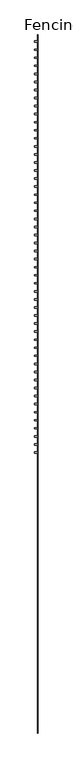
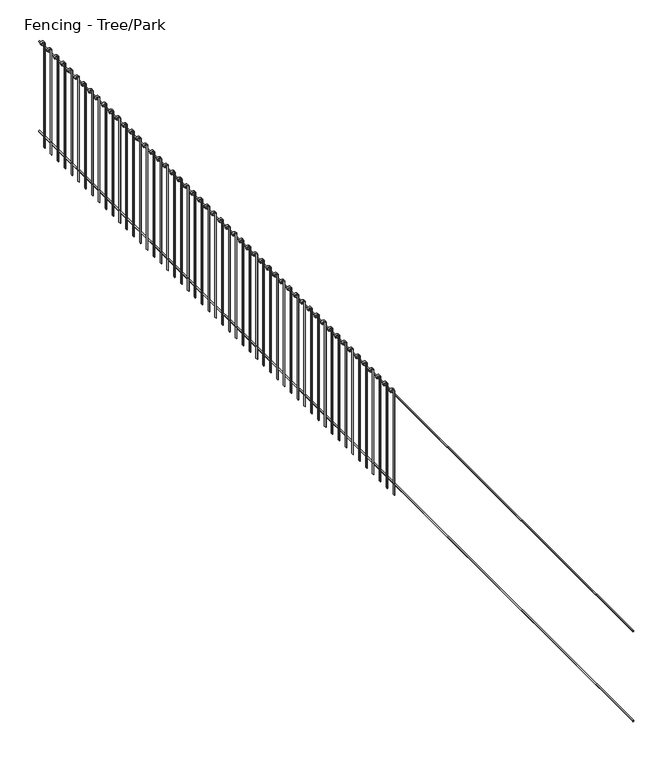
"""IFC4 building model written with IfcOpenShell, lengths in millimetres: railing geometry, Fencing - Tree/Park."""

from ifc_helpers import new_model, si_unit, point, frame, frame_2d, origin, place, context, project, spatial, polyline, circle_curve, trimmed, segment, composite_curve, outline, extrude, source, transform, mapped, element, save


def fencing_tree_park_c87fcb7d(model_context):
    return source(origin(), model_context, "Body", "SweptSolid", [
        extrude(outline(composite_curve([segment(trimmed(circle_curve(frame_2d((1392.5, 42808.4324334)), 7.5), [point((1392.5, 42800.9324334))], [point((1392.5, 42815.9324334))], False, "CARTESIAN"), True, "CONTINUOUS"), segment(trimmed(circle_curve(frame_2d((1392.5, 42808.4324334)), 7.5), [point((1392.5, 42815.9324334))], [point((1392.5, 42800.9324334))], False, "CARTESIAN"), True, "CONTINUOUS")], self_intersect=False)), frame((0.0, -56479.0868221, 0.0), z_axis=(0.0, 1.0, 0.0), x_axis=(0.0, 0.0, 1.0)), (0.0, 0.0, 1.0), 13000.0),
        extrude(outline(composite_curve([segment(trimmed(circle_curve(frame_2d((192.5, 42808.4324334)), 7.5), [point((192.5, 42800.9324334))], [point((192.5, 42815.9324334))], False, "CARTESIAN"), True, "CONTINUOUS"), segment(trimmed(circle_curve(frame_2d((192.5, 42808.4324334)), 7.5), [point((192.5, 42815.9324334))], [point((192.5, 42800.9324334))], False, "CARTESIAN"), True, "CONTINUOUS")], self_intersect=False)), frame((0.0, -56479.0868221, 0.0), z_axis=(0.0, 1.0, 0.0), x_axis=(0.0, 0.0, 1.0)), (0.0, 0.0, 1.0), 13000.0),
        extrude(outline(composite_curve([segment(trimmed(circle_curve(frame_2d((1450.0, 42775.9324334)), 25.0), [point((1450.0, 42800.9324334))], [point((1450.0, 42750.9324334))], False, "CARTESIAN"), True, "CONTINUOUS"), segment(polyline([(1450.0, 42750.9324334), (1440.0, 42750.9324334), (1440.0, 42755.9324334), (1450.0, 42755.9324334)]), True, "CONTINUOUS"), segment(trimmed(circle_curve(frame_2d((1450.0, 42775.9324334)), 20.0), [point((1450.0, 42755.9324334))], [point((1450.0, 42795.9324334))], True, "CARTESIAN"), True, "CONTINUOUS"), segment(polyline([(1450.0, 42795.9324334), (50.0, 42795.9324334), (50.0, 42800.9324334), (1450.0, 42800.9324334)]), True, "CONTINUOUS")], self_intersect=False)), frame((0.0, -43616.5868221, 0.0), z_axis=(0.0, 1.0, 0.0), x_axis=(0.0, 0.0, 1.0)), (0.0, 0.0, 1.0), 25.0),
        extrude(outline(composite_curve([segment(trimmed(circle_curve(frame_2d((1450.0, 42775.9324334)), 25.0), [point((1450.0, 42800.9324334))], [point((1450.0, 42750.9324334))], False, "CARTESIAN"), True, "CONTINUOUS"), segment(polyline([(1450.0, 42750.9324334), (1440.0, 42750.9324334), (1440.0, 42755.9324334), (1450.0, 42755.9324334)]), True, "CONTINUOUS"), segment(trimmed(circle_curve(frame_2d((1450.0, 42775.9324334)), 20.0), [point((1450.0, 42755.9324334))], [point((1450.0, 42795.9324334))], True, "CARTESIAN"), True, "CONTINUOUS"), segment(polyline([(1450.0, 42795.9324334), (50.0, 42795.9324334), (50.0, 42800.9324334), (1450.0, 42800.9324334)]), True, "CONTINUOUS")], self_intersect=False)), frame((0.0, -43766.5868221, 0.0), z_axis=(0.0, 1.0, 0.0), x_axis=(0.0, 0.0, 1.0)), (0.0, 0.0, 1.0), 25.0),
        extrude(outline(composite_curve([segment(trimmed(circle_curve(frame_2d((1450.0, 42775.9324334)), 25.0), [point((1450.0, 42800.9324334))], [point((1450.0, 42750.9324334))], False, "CARTESIAN"), True, "CONTINUOUS"), segment(polyline([(1450.0, 42750.9324334), (1440.0, 42750.9324334), (1440.0, 42755.9324334), (1450.0, 42755.9324334)]), True, "CONTINUOUS"), segment(trimmed(circle_curve(frame_2d((1450.0, 42775.9324334)), 20.0), [point((1450.0, 42755.9324334))], [point((1450.0, 42795.9324334))], True, "CARTESIAN"), True, "CONTINUOUS"), segment(polyline([(1450.0, 42795.9324334), (50.0, 42795.9324334), (50.0, 42800.9324334), (1450.0, 42800.9324334)]), True, "CONTINUOUS")], self_intersect=False)), frame((0.0, -43916.5868221, 0.0), z_axis=(0.0, 1.0, 0.0), x_axis=(0.0, 0.0, 1.0)), (0.0, 0.0, 1.0), 25.0),
        extrude(outline(composite_curve([segment(trimmed(circle_curve(frame_2d((1450.0, 42775.9324334)), 25.0), [point((1450.0, 42800.9324334))], [point((1450.0, 42750.9324334))], False, "CARTESIAN"), True, "CONTINUOUS"), segment(polyline([(1450.0, 42750.9324334), (1440.0, 42750.9324334), (1440.0, 42755.9324334), (1450.0, 42755.9324334)]), True, "CONTINUOUS"), segment(trimmed(circle_curve(frame_2d((1450.0, 42775.9324334)), 20.0), [point((1450.0, 42755.9324334))], [point((1450.0, 42795.9324334))], True, "CARTESIAN"), True, "CONTINUOUS"), segment(polyline([(1450.0, 42795.9324334), (50.0, 42795.9324334), (50.0, 42800.9324334), (1450.0, 42800.9324334)]), True, "CONTINUOUS")], self_intersect=False)), frame((0.0, -44066.5868221, 0.0), z_axis=(0.0, 1.0, 0.0), x_axis=(0.0, 0.0, 1.0)), (0.0, 0.0, 1.0), 25.0),
        extrude(outline(composite_curve([segment(trimmed(circle_curve(frame_2d((1450.0, 42775.9324334)), 25.0), [point((1450.0, 42800.9324334))], [point((1450.0, 42750.9324334))], False, "CARTESIAN"), True, "CONTINUOUS"), segment(polyline([(1450.0, 42750.9324334), (1440.0, 42750.9324334), (1440.0, 42755.9324334), (1450.0, 42755.9324334)]), True, "CONTINUOUS"), segment(trimmed(circle_curve(frame_2d((1450.0, 42775.9324334)), 20.0), [point((1450.0, 42755.9324334))], [point((1450.0, 42795.9324334))], True, "CARTESIAN"), True, "CONTINUOUS"), segment(polyline([(1450.0, 42795.9324334), (50.0, 42795.9324334), (50.0, 42800.9324334), (1450.0, 42800.9324334)]), True, "CONTINUOUS")], self_intersect=False)), frame((0.0, -44216.5868221, 0.0), z_axis=(0.0, 1.0, 0.0), x_axis=(0.0, 0.0, 1.0)), (0.0, 0.0, 1.0), 25.0),
        extrude(outline(composite_curve([segment(trimmed(circle_curve(frame_2d((1450.0, 42775.9324334)), 25.0), [point((1450.0, 42800.9324334))], [point((1450.0, 42750.9324334))], False, "CARTESIAN"), True, "CONTINUOUS"), segment(polyline([(1450.0, 42750.9324334), (1440.0, 42750.9324334), (1440.0, 42755.9324334), (1450.0, 42755.9324334)]), True, "CONTINUOUS"), segment(trimmed(circle_curve(frame_2d((1450.0, 42775.9324334)), 20.0), [point((1450.0, 42755.9324334))], [point((1450.0, 42795.9324334))], True, "CARTESIAN"), True, "CONTINUOUS"), segment(polyline([(1450.0, 42795.9324334), (50.0, 42795.9324334), (50.0, 42800.9324334), (1450.0, 42800.9324334)]), True, "CONTINUOUS")], self_intersect=False)), frame((0.0, -44366.5868221, 0.0), z_axis=(0.0, 1.0, 0.0), x_axis=(0.0, 0.0, 1.0)), (0.0, 0.0, 1.0), 25.0),
        extrude(outline(composite_curve([segment(trimmed(circle_curve(frame_2d((1450.0, 42775.9324334)), 25.0), [point((1450.0, 42800.9324334))], [point((1450.0, 42750.9324334))], False, "CARTESIAN"), True, "CONTINUOUS"), segment(polyline([(1450.0, 42750.9324334), (1440.0, 42750.9324334), (1440.0, 42755.9324334), (1450.0, 42755.9324334)]), True, "CONTINUOUS"), segment(trimmed(circle_curve(frame_2d((1450.0, 42775.9324334)), 20.0), [point((1450.0, 42755.9324334))], [point((1450.0, 42795.9324334))], True, "CARTESIAN"), True, "CONTINUOUS"), segment(polyline([(1450.0, 42795.9324334), (50.0, 42795.9324334), (50.0, 42800.9324334), (1450.0, 42800.9324334)]), True, "CONTINUOUS")], self_intersect=False)), frame((0.0, -44516.5868221, 0.0), z_axis=(0.0, 1.0, 0.0), x_axis=(0.0, 0.0, 1.0)), (0.0, 0.0, 1.0), 25.0),
        extrude(outline(composite_curve([segment(trimmed(circle_curve(frame_2d((1450.0, 42775.9324334)), 25.0), [point((1450.0, 42800.9324334))], [point((1450.0, 42750.9324334))], False, "CARTESIAN"), True, "CONTINUOUS"), segment(polyline([(1450.0, 42750.9324334), (1440.0, 42750.9324334), (1440.0, 42755.9324334), (1450.0, 42755.9324334)]), True, "CONTINUOUS"), segment(trimmed(circle_curve(frame_2d((1450.0, 42775.9324334)), 20.0), [point((1450.0, 42755.9324334))], [point((1450.0, 42795.9324334))], True, "CARTESIAN"), True, "CONTINUOUS"), segment(polyline([(1450.0, 42795.9324334), (50.0, 42795.9324334), (50.0, 42800.9324334), (1450.0, 42800.9324334)]), True, "CONTINUOUS")], self_intersect=False)), frame((0.0, -44666.5868221, 0.0), z_axis=(0.0, 1.0, 0.0), x_axis=(0.0, 0.0, 1.0)), (0.0, 0.0, 1.0), 25.0),
        extrude(outline(composite_curve([segment(trimmed(circle_curve(frame_2d((1450.0, 42775.9324334)), 25.0), [point((1450.0, 42800.9324334))], [point((1450.0, 42750.9324334))], False, "CARTESIAN"), True, "CONTINUOUS"), segment(polyline([(1450.0, 42750.9324334), (1440.0, 42750.9324334), (1440.0, 42755.9324334), (1450.0, 42755.9324334)]), True, "CONTINUOUS"), segment(trimmed(circle_curve(frame_2d((1450.0, 42775.9324334)), 20.0), [point((1450.0, 42755.9324334))], [point((1450.0, 42795.9324334))], True, "CARTESIAN"), True, "CONTINUOUS"), segment(polyline([(1450.0, 42795.9324334), (50.0, 42795.9324334), (50.0, 42800.9324334), (1450.0, 42800.9324334)]), True, "CONTINUOUS")], self_intersect=False)), frame((0.0, -44816.5868221, 0.0), z_axis=(0.0, 1.0, 0.0), x_axis=(0.0, 0.0, 1.0)), (0.0, 0.0, 1.0), 25.0),
        extrude(outline(composite_curve([segment(trimmed(circle_curve(frame_2d((1450.0, 42775.9324334)), 25.0), [point((1450.0, 42800.9324334))], [point((1450.0, 42750.9324334))], False, "CARTESIAN"), True, "CONTINUOUS"), segment(polyline([(1450.0, 42750.9324334), (1440.0, 42750.9324334), (1440.0, 42755.9324334), (1450.0, 42755.9324334)]), True, "CONTINUOUS"), segment(trimmed(circle_curve(frame_2d((1450.0, 42775.9324334)), 20.0), [point((1450.0, 42755.9324334))], [point((1450.0, 42795.9324334))], True, "CARTESIAN"), True, "CONTINUOUS"), segment(polyline([(1450.0, 42795.9324334), (50.0, 42795.9324334), (50.0, 42800.9324334), (1450.0, 42800.9324334)]), True, "CONTINUOUS")], self_intersect=False)), frame((0.0, -44966.5868221, 0.0), z_axis=(0.0, 1.0, 0.0), x_axis=(0.0, 0.0, 1.0)), (0.0, 0.0, 1.0), 25.0),
        extrude(outline(composite_curve([segment(trimmed(circle_curve(frame_2d((1450.0, 42775.9324334)), 25.0), [point((1450.0, 42800.9324334))], [point((1450.0, 42750.9324334))], False, "CARTESIAN"), True, "CONTINUOUS"), segment(polyline([(1450.0, 42750.9324334), (1440.0, 42750.9324334), (1440.0, 42755.9324334), (1450.0, 42755.9324334)]), True, "CONTINUOUS"), segment(trimmed(circle_curve(frame_2d((1450.0, 42775.9324334)), 20.0), [point((1450.0, 42755.9324334))], [point((1450.0, 42795.9324334))], True, "CARTESIAN"), True, "CONTINUOUS"), segment(polyline([(1450.0, 42795.9324334), (50.0, 42795.9324334), (50.0, 42800.9324334), (1450.0, 42800.9324334)]), True, "CONTINUOUS")], self_intersect=False)), frame((0.0, -45116.5868221, 0.0), z_axis=(0.0, 1.0, 0.0), x_axis=(0.0, 0.0, 1.0)), (0.0, 0.0, 1.0), 25.0),
        extrude(outline(composite_curve([segment(trimmed(circle_curve(frame_2d((1450.0, 42775.9324334)), 25.0), [point((1450.0, 42800.9324334))], [point((1450.0, 42750.9324334))], False, "CARTESIAN"), True, "CONTINUOUS"), segment(polyline([(1450.0, 42750.9324334), (1440.0, 42750.9324334), (1440.0, 42755.9324334), (1450.0, 42755.9324334)]), True, "CONTINUOUS"), segment(trimmed(circle_curve(frame_2d((1450.0, 42775.9324334)), 20.0), [point((1450.0, 42755.9324334))], [point((1450.0, 42795.9324334))], True, "CARTESIAN"), True, "CONTINUOUS"), segment(polyline([(1450.0, 42795.9324334), (50.0, 42795.9324334), (50.0, 42800.9324334), (1450.0, 42800.9324334)]), True, "CONTINUOUS")], self_intersect=False)), frame((0.0, -45266.5868221, 0.0), z_axis=(0.0, 1.0, 0.0), x_axis=(0.0, 0.0, 1.0)), (0.0, 0.0, 1.0), 25.0),
        extrude(outline(composite_curve([segment(trimmed(circle_curve(frame_2d((1450.0, 42775.9324334)), 25.0), [point((1450.0, 42800.9324334))], [point((1450.0, 42750.9324334))], False, "CARTESIAN"), True, "CONTINUOUS"), segment(polyline([(1450.0, 42750.9324334), (1440.0, 42750.9324334), (1440.0, 42755.9324334), (1450.0, 42755.9324334)]), True, "CONTINUOUS"), segment(trimmed(circle_curve(frame_2d((1450.0, 42775.9324334)), 20.0), [point((1450.0, 42755.9324334))], [point((1450.0, 42795.9324334))], True, "CARTESIAN"), True, "CONTINUOUS"), segment(polyline([(1450.0, 42795.9324334), (50.0, 42795.9324334), (50.0, 42800.9324334), (1450.0, 42800.9324334)]), True, "CONTINUOUS")], self_intersect=False)), frame((0.0, -45416.5868221, 0.0), z_axis=(0.0, 1.0, 0.0), x_axis=(0.0, 0.0, 1.0)), (0.0, 0.0, 1.0), 25.0),
        extrude(outline(composite_curve([segment(trimmed(circle_curve(frame_2d((1450.0, 42775.9324334)), 25.0), [point((1450.0, 42800.9324334))], [point((1450.0, 42750.9324334))], False, "CARTESIAN"), True, "CONTINUOUS"), segment(polyline([(1450.0, 42750.9324334), (1440.0, 42750.9324334), (1440.0, 42755.9324334), (1450.0, 42755.9324334)]), True, "CONTINUOUS"), segment(trimmed(circle_curve(frame_2d((1450.0, 42775.9324334)), 20.0), [point((1450.0, 42755.9324334))], [point((1450.0, 42795.9324334))], True, "CARTESIAN"), True, "CONTINUOUS"), segment(polyline([(1450.0, 42795.9324334), (50.0, 42795.9324334), (50.0, 42800.9324334), (1450.0, 42800.9324334)]), True, "CONTINUOUS")], self_intersect=False)), frame((0.0, -45566.5868221, 0.0), z_axis=(0.0, 1.0, 0.0), x_axis=(0.0, 0.0, 1.0)), (0.0, 0.0, 1.0), 25.0),
        extrude(outline(composite_curve([segment(trimmed(circle_curve(frame_2d((1450.0, 42775.9324334)), 25.0), [point((1450.0, 42800.9324334))], [point((1450.0, 42750.9324334))], False, "CARTESIAN"), True, "CONTINUOUS"), segment(polyline([(1450.0, 42750.9324334), (1440.0, 42750.9324334), (1440.0, 42755.9324334), (1450.0, 42755.9324334)]), True, "CONTINUOUS"), segment(trimmed(circle_curve(frame_2d((1450.0, 42775.9324334)), 20.0), [point((1450.0, 42755.9324334))], [point((1450.0, 42795.9324334))], True, "CARTESIAN"), True, "CONTINUOUS"), segment(polyline([(1450.0, 42795.9324334), (50.0, 42795.9324334), (50.0, 42800.9324334), (1450.0, 42800.9324334)]), True, "CONTINUOUS")], self_intersect=False)), frame((0.0, -45716.5868221, 0.0), z_axis=(0.0, 1.0, 0.0), x_axis=(0.0, 0.0, 1.0)), (0.0, 0.0, 1.0), 25.0),
        extrude(outline(composite_curve([segment(trimmed(circle_curve(frame_2d((1450.0, 42775.9324334)), 25.0), [point((1450.0, 42800.9324334))], [point((1450.0, 42750.9324334))], False, "CARTESIAN"), True, "CONTINUOUS"), segment(polyline([(1450.0, 42750.9324334), (1440.0, 42750.9324334), (1440.0, 42755.9324334), (1450.0, 42755.9324334)]), True, "CONTINUOUS"), segment(trimmed(circle_curve(frame_2d((1450.0, 42775.9324334)), 20.0), [point((1450.0, 42755.9324334))], [point((1450.0, 42795.9324334))], True, "CARTESIAN"), True, "CONTINUOUS"), segment(polyline([(1450.0, 42795.9324334), (50.0, 42795.9324334), (50.0, 42800.9324334), (1450.0, 42800.9324334)]), True, "CONTINUOUS")], self_intersect=False)), frame((0.0, -45866.5868221, 0.0), z_axis=(0.0, 1.0, 0.0), x_axis=(0.0, 0.0, 1.0)), (0.0, 0.0, 1.0), 25.0),
        extrude(outline(composite_curve([segment(trimmed(circle_curve(frame_2d((1450.0, 42775.9324334)), 25.0), [point((1450.0, 42800.9324334))], [point((1450.0, 42750.9324334))], False, "CARTESIAN"), True, "CONTINUOUS"), segment(polyline([(1450.0, 42750.9324334), (1440.0, 42750.9324334), (1440.0, 42755.9324334), (1450.0, 42755.9324334)]), True, "CONTINUOUS"), segment(trimmed(circle_curve(frame_2d((1450.0, 42775.9324334)), 20.0), [point((1450.0, 42755.9324334))], [point((1450.0, 42795.9324334))], True, "CARTESIAN"), True, "CONTINUOUS"), segment(polyline([(1450.0, 42795.9324334), (50.0, 42795.9324334), (50.0, 42800.9324334), (1450.0, 42800.9324334)]), True, "CONTINUOUS")], self_intersect=False)), frame((0.0, -46016.5868221, 0.0), z_axis=(0.0, 1.0, 0.0), x_axis=(0.0, 0.0, 1.0)), (0.0, 0.0, 1.0), 25.0),
        extrude(outline(composite_curve([segment(trimmed(circle_curve(frame_2d((1450.0, 42775.9324334)), 25.0), [point((1450.0, 42800.9324334))], [point((1450.0, 42750.9324334))], False, "CARTESIAN"), True, "CONTINUOUS"), segment(polyline([(1450.0, 42750.9324334), (1440.0, 42750.9324334), (1440.0, 42755.9324334), (1450.0, 42755.9324334)]), True, "CONTINUOUS"), segment(trimmed(circle_curve(frame_2d((1450.0, 42775.9324334)), 20.0), [point((1450.0, 42755.9324334))], [point((1450.0, 42795.9324334))], True, "CARTESIAN"), True, "CONTINUOUS"), segment(polyline([(1450.0, 42795.9324334), (50.0, 42795.9324334), (50.0, 42800.9324334), (1450.0, 42800.9324334)]), True, "CONTINUOUS")], self_intersect=False)), frame((0.0, -46166.5868221, 0.0), z_axis=(0.0, 1.0, 0.0), x_axis=(0.0, 0.0, 1.0)), (0.0, 0.0, 1.0), 25.0),
        extrude(outline(composite_curve([segment(trimmed(circle_curve(frame_2d((1450.0, 42775.9324334)), 25.0), [point((1450.0, 42800.9324334))], [point((1450.0, 42750.9324334))], False, "CARTESIAN"), True, "CONTINUOUS"), segment(polyline([(1450.0, 42750.9324334), (1440.0, 42750.9324334), (1440.0, 42755.9324334), (1450.0, 42755.9324334)]), True, "CONTINUOUS"), segment(trimmed(circle_curve(frame_2d((1450.0, 42775.9324334)), 20.0), [point((1450.0, 42755.9324334))], [point((1450.0, 42795.9324334))], True, "CARTESIAN"), True, "CONTINUOUS"), segment(polyline([(1450.0, 42795.9324334), (50.0, 42795.9324334), (50.0, 42800.9324334), (1450.0, 42800.9324334)]), True, "CONTINUOUS")], self_intersect=False)), frame((0.0, -46316.5868221, 0.0), z_axis=(0.0, 1.0, 0.0), x_axis=(0.0, 0.0, 1.0)), (0.0, 0.0, 1.0), 25.0),
        extrude(outline(composite_curve([segment(trimmed(circle_curve(frame_2d((1450.0, 42775.9324334)), 25.0), [point((1450.0, 42800.9324334))], [point((1450.0, 42750.9324334))], False, "CARTESIAN"), True, "CONTINUOUS"), segment(polyline([(1450.0, 42750.9324334), (1440.0, 42750.9324334), (1440.0, 42755.9324334), (1450.0, 42755.9324334)]), True, "CONTINUOUS"), segment(trimmed(circle_curve(frame_2d((1450.0, 42775.9324334)), 20.0), [point((1450.0, 42755.9324334))], [point((1450.0, 42795.9324334))], True, "CARTESIAN"), True, "CONTINUOUS"), segment(polyline([(1450.0, 42795.9324334), (50.0, 42795.9324334), (50.0, 42800.9324334), (1450.0, 42800.9324334)]), True, "CONTINUOUS")], self_intersect=False)), frame((0.0, -46466.5868221, 0.0), z_axis=(0.0, 1.0, 0.0), x_axis=(0.0, 0.0, 1.0)), (0.0, 0.0, 1.0), 25.0),
        extrude(outline(composite_curve([segment(trimmed(circle_curve(frame_2d((1450.0, 42775.9324334)), 25.0), [point((1450.0, 42800.9324334))], [point((1450.0, 42750.9324334))], False, "CARTESIAN"), True, "CONTINUOUS"), segment(polyline([(1450.0, 42750.9324334), (1440.0, 42750.9324334), (1440.0, 42755.9324334), (1450.0, 42755.9324334)]), True, "CONTINUOUS"), segment(trimmed(circle_curve(frame_2d((1450.0, 42775.9324334)), 20.0), [point((1450.0, 42755.9324334))], [point((1450.0, 42795.9324334))], True, "CARTESIAN"), True, "CONTINUOUS"), segment(polyline([(1450.0, 42795.9324334), (50.0, 42795.9324334), (50.0, 42800.9324334), (1450.0, 42800.9324334)]), True, "CONTINUOUS")], self_intersect=False)), frame((0.0, -46616.5868221, 0.0), z_axis=(0.0, 1.0, 0.0), x_axis=(0.0, 0.0, 1.0)), (0.0, 0.0, 1.0), 25.0),
        extrude(outline(composite_curve([segment(trimmed(circle_curve(frame_2d((1450.0, 42775.9324334)), 25.0), [point((1450.0, 42800.9324334))], [point((1450.0, 42750.9324334))], False, "CARTESIAN"), True, "CONTINUOUS"), segment(polyline([(1450.0, 42750.9324334), (1440.0, 42750.9324334), (1440.0, 42755.9324334), (1450.0, 42755.9324334)]), True, "CONTINUOUS"), segment(trimmed(circle_curve(frame_2d((1450.0, 42775.9324334)), 20.0), [point((1450.0, 42755.9324334))], [point((1450.0, 42795.9324334))], True, "CARTESIAN"), True, "CONTINUOUS"), segment(polyline([(1450.0, 42795.9324334), (50.0, 42795.9324334), (50.0, 42800.9324334), (1450.0, 42800.9324334)]), True, "CONTINUOUS")], self_intersect=False)), frame((0.0, -46766.5868221, 0.0), z_axis=(0.0, 1.0, 0.0), x_axis=(0.0, 0.0, 1.0)), (0.0, 0.0, 1.0), 25.0),
        extrude(outline(composite_curve([segment(trimmed(circle_curve(frame_2d((1450.0, 42775.9324334)), 25.0), [point((1450.0, 42800.9324334))], [point((1450.0, 42750.9324334))], False, "CARTESIAN"), True, "CONTINUOUS"), segment(polyline([(1450.0, 42750.9324334), (1440.0, 42750.9324334), (1440.0, 42755.9324334), (1450.0, 42755.9324334)]), True, "CONTINUOUS"), segment(trimmed(circle_curve(frame_2d((1450.0, 42775.9324334)), 20.0), [point((1450.0, 42755.9324334))], [point((1450.0, 42795.9324334))], True, "CARTESIAN"), True, "CONTINUOUS"), segment(polyline([(1450.0, 42795.9324334), (50.0, 42795.9324334), (50.0, 42800.9324334), (1450.0, 42800.9324334)]), True, "CONTINUOUS")], self_intersect=False)), frame((0.0, -46916.5868221, 0.0), z_axis=(0.0, 1.0, 0.0), x_axis=(0.0, 0.0, 1.0)), (0.0, 0.0, 1.0), 25.0),
        extrude(outline(composite_curve([segment(trimmed(circle_curve(frame_2d((1450.0, 42775.9324334)), 25.0), [point((1450.0, 42800.9324334))], [point((1450.0, 42750.9324334))], False, "CARTESIAN"), True, "CONTINUOUS"), segment(polyline([(1450.0, 42750.9324334), (1440.0, 42750.9324334), (1440.0, 42755.9324334), (1450.0, 42755.9324334)]), True, "CONTINUOUS"), segment(trimmed(circle_curve(frame_2d((1450.0, 42775.9324334)), 20.0), [point((1450.0, 42755.9324334))], [point((1450.0, 42795.9324334))], True, "CARTESIAN"), True, "CONTINUOUS"), segment(polyline([(1450.0, 42795.9324334), (50.0, 42795.9324334), (50.0, 42800.9324334), (1450.0, 42800.9324334)]), True, "CONTINUOUS")], self_intersect=False)), frame((0.0, -47066.5868221, 0.0), z_axis=(0.0, 1.0, 0.0), x_axis=(0.0, 0.0, 1.0)), (0.0, 0.0, 1.0), 25.0),
        extrude(outline(composite_curve([segment(trimmed(circle_curve(frame_2d((1450.0, 42775.9324334)), 25.0), [point((1450.0, 42800.9324334))], [point((1450.0, 42750.9324334))], False, "CARTESIAN"), True, "CONTINUOUS"), segment(polyline([(1450.0, 42750.9324334), (1440.0, 42750.9324334), (1440.0, 42755.9324334), (1450.0, 42755.9324334)]), True, "CONTINUOUS"), segment(trimmed(circle_curve(frame_2d((1450.0, 42775.9324334)), 20.0), [point((1450.0, 42755.9324334))], [point((1450.0, 42795.9324334))], True, "CARTESIAN"), True, "CONTINUOUS"), segment(polyline([(1450.0, 42795.9324334), (50.0, 42795.9324334), (50.0, 42800.9324334), (1450.0, 42800.9324334)]), True, "CONTINUOUS")], self_intersect=False)), frame((0.0, -47216.5868221, 0.0), z_axis=(0.0, 1.0, 0.0), x_axis=(0.0, 0.0, 1.0)), (0.0, 0.0, 1.0), 25.0),
        extrude(outline(composite_curve([segment(trimmed(circle_curve(frame_2d((1450.0, 42775.9324334)), 25.0), [point((1450.0, 42800.9324334))], [point((1450.0, 42750.9324334))], False, "CARTESIAN"), True, "CONTINUOUS"), segment(polyline([(1450.0, 42750.9324334), (1440.0, 42750.9324334), (1440.0, 42755.9324334), (1450.0, 42755.9324334)]), True, "CONTINUOUS"), segment(trimmed(circle_curve(frame_2d((1450.0, 42775.9324334)), 20.0), [point((1450.0, 42755.9324334))], [point((1450.0, 42795.9324334))], True, "CARTESIAN"), True, "CONTINUOUS"), segment(polyline([(1450.0, 42795.9324334), (50.0, 42795.9324334), (50.0, 42800.9324334), (1450.0, 42800.9324334)]), True, "CONTINUOUS")], self_intersect=False)), frame((0.0, -47366.5868221, 0.0), z_axis=(0.0, 1.0, 0.0), x_axis=(0.0, 0.0, 1.0)), (0.0, 0.0, 1.0), 25.0),
        extrude(outline(composite_curve([segment(trimmed(circle_curve(frame_2d((1450.0, 42775.9324334)), 25.0), [point((1450.0, 42800.9324334))], [point((1450.0, 42750.9324334))], False, "CARTESIAN"), True, "CONTINUOUS"), segment(polyline([(1450.0, 42750.9324334), (1440.0, 42750.9324334), (1440.0, 42755.9324334), (1450.0, 42755.9324334)]), True, "CONTINUOUS"), segment(trimmed(circle_curve(frame_2d((1450.0, 42775.9324334)), 20.0), [point((1450.0, 42755.9324334))], [point((1450.0, 42795.9324334))], True, "CARTESIAN"), True, "CONTINUOUS"), segment(polyline([(1450.0, 42795.9324334), (50.0, 42795.9324334), (50.0, 42800.9324334), (1450.0, 42800.9324334)]), True, "CONTINUOUS")], self_intersect=False)), frame((0.0, -47516.5868221, 0.0), z_axis=(0.0, 1.0, 0.0), x_axis=(0.0, 0.0, 1.0)), (0.0, 0.0, 1.0), 25.0),
        extrude(outline(composite_curve([segment(trimmed(circle_curve(frame_2d((1450.0, 42775.9324334)), 25.0), [point((1450.0, 42800.9324334))], [point((1450.0, 42750.9324334))], False, "CARTESIAN"), True, "CONTINUOUS"), segment(polyline([(1450.0, 42750.9324334), (1440.0, 42750.9324334), (1440.0, 42755.9324334), (1450.0, 42755.9324334)]), True, "CONTINUOUS"), segment(trimmed(circle_curve(frame_2d((1450.0, 42775.9324334)), 20.0), [point((1450.0, 42755.9324334))], [point((1450.0, 42795.9324334))], True, "CARTESIAN"), True, "CONTINUOUS"), segment(polyline([(1450.0, 42795.9324334), (50.0, 42795.9324334), (50.0, 42800.9324334), (1450.0, 42800.9324334)]), True, "CONTINUOUS")], self_intersect=False)), frame((0.0, -47666.5868221, 0.0), z_axis=(0.0, 1.0, 0.0), x_axis=(0.0, 0.0, 1.0)), (0.0, 0.0, 1.0), 25.0),
        extrude(outline(composite_curve([segment(trimmed(circle_curve(frame_2d((1450.0, 42775.9324334)), 25.0), [point((1450.0, 42800.9324334))], [point((1450.0, 42750.9324334))], False, "CARTESIAN"), True, "CONTINUOUS"), segment(polyline([(1450.0, 42750.9324334), (1440.0, 42750.9324334), (1440.0, 42755.9324334), (1450.0, 42755.9324334)]), True, "CONTINUOUS"), segment(trimmed(circle_curve(frame_2d((1450.0, 42775.9324334)), 20.0), [point((1450.0, 42755.9324334))], [point((1450.0, 42795.9324334))], True, "CARTESIAN"), True, "CONTINUOUS"), segment(polyline([(1450.0, 42795.9324334), (50.0, 42795.9324334), (50.0, 42800.9324334), (1450.0, 42800.9324334)]), True, "CONTINUOUS")], self_intersect=False)), frame((0.0, -47816.5868221, 0.0), z_axis=(0.0, 1.0, 0.0), x_axis=(0.0, 0.0, 1.0)), (0.0, 0.0, 1.0), 25.0),
        extrude(outline(composite_curve([segment(trimmed(circle_curve(frame_2d((1450.0, 42775.9324334)), 25.0), [point((1450.0, 42800.9324334))], [point((1450.0, 42750.9324334))], False, "CARTESIAN"), True, "CONTINUOUS"), segment(polyline([(1450.0, 42750.9324334), (1440.0, 42750.9324334), (1440.0, 42755.9324334), (1450.0, 42755.9324334)]), True, "CONTINUOUS"), segment(trimmed(circle_curve(frame_2d((1450.0, 42775.9324334)), 20.0), [point((1450.0, 42755.9324334))], [point((1450.0, 42795.9324334))], True, "CARTESIAN"), True, "CONTINUOUS"), segment(polyline([(1450.0, 42795.9324334), (50.0, 42795.9324334), (50.0, 42800.9324334), (1450.0, 42800.9324334)]), True, "CONTINUOUS")], self_intersect=False)), frame((0.0, -47966.5868221, 0.0), z_axis=(0.0, 1.0, 0.0), x_axis=(0.0, 0.0, 1.0)), (0.0, 0.0, 1.0), 25.0),
        extrude(outline(composite_curve([segment(trimmed(circle_curve(frame_2d((1450.0, 42775.9324334)), 25.0), [point((1450.0, 42800.9324334))], [point((1450.0, 42750.9324334))], False, "CARTESIAN"), True, "CONTINUOUS"), segment(polyline([(1450.0, 42750.9324334), (1440.0, 42750.9324334), (1440.0, 42755.9324334), (1450.0, 42755.9324334)]), True, "CONTINUOUS"), segment(trimmed(circle_curve(frame_2d((1450.0, 42775.9324334)), 20.0), [point((1450.0, 42755.9324334))], [point((1450.0, 42795.9324334))], True, "CARTESIAN"), True, "CONTINUOUS"), segment(polyline([(1450.0, 42795.9324334), (50.0, 42795.9324334), (50.0, 42800.9324334), (1450.0, 42800.9324334)]), True, "CONTINUOUS")], self_intersect=False)), frame((0.0, -48116.5868221, 0.0), z_axis=(0.0, 1.0, 0.0), x_axis=(0.0, 0.0, 1.0)), (0.0, 0.0, 1.0), 25.0),
        extrude(outline(composite_curve([segment(trimmed(circle_curve(frame_2d((1450.0, 42775.9324334)), 25.0), [point((1450.0, 42800.9324334))], [point((1450.0, 42750.9324334))], False, "CARTESIAN"), True, "CONTINUOUS"), segment(polyline([(1450.0, 42750.9324334), (1440.0, 42750.9324334), (1440.0, 42755.9324334), (1450.0, 42755.9324334)]), True, "CONTINUOUS"), segment(trimmed(circle_curve(frame_2d((1450.0, 42775.9324334)), 20.0), [point((1450.0, 42755.9324334))], [point((1450.0, 42795.9324334))], True, "CARTESIAN"), True, "CONTINUOUS"), segment(polyline([(1450.0, 42795.9324334), (50.0, 42795.9324334), (50.0, 42800.9324334), (1450.0, 42800.9324334)]), True, "CONTINUOUS")], self_intersect=False)), frame((0.0, -48266.5868221, 0.0), z_axis=(0.0, 1.0, 0.0), x_axis=(0.0, 0.0, 1.0)), (0.0, 0.0, 1.0), 25.0),
        extrude(outline(composite_curve([segment(trimmed(circle_curve(frame_2d((1450.0, 42775.9324334)), 25.0), [point((1450.0, 42800.9324334))], [point((1450.0, 42750.9324334))], False, "CARTESIAN"), True, "CONTINUOUS"), segment(polyline([(1450.0, 42750.9324334), (1440.0, 42750.9324334), (1440.0, 42755.9324334), (1450.0, 42755.9324334)]), True, "CONTINUOUS"), segment(trimmed(circle_curve(frame_2d((1450.0, 42775.9324334)), 20.0), [point((1450.0, 42755.9324334))], [point((1450.0, 42795.9324334))], True, "CARTESIAN"), True, "CONTINUOUS"), segment(polyline([(1450.0, 42795.9324334), (50.0, 42795.9324334), (50.0, 42800.9324334), (1450.0, 42800.9324334)]), True, "CONTINUOUS")], self_intersect=False)), frame((0.0, -48416.5868221, 0.0), z_axis=(0.0, 1.0, 0.0), x_axis=(0.0, 0.0, 1.0)), (0.0, 0.0, 1.0), 25.0),
        extrude(outline(composite_curve([segment(trimmed(circle_curve(frame_2d((1450.0, 42775.9324334)), 25.0), [point((1450.0, 42800.9324334))], [point((1450.0, 42750.9324334))], False, "CARTESIAN"), True, "CONTINUOUS"), segment(polyline([(1450.0, 42750.9324334), (1440.0, 42750.9324334), (1440.0, 42755.9324334), (1450.0, 42755.9324334)]), True, "CONTINUOUS"), segment(trimmed(circle_curve(frame_2d((1450.0, 42775.9324334)), 20.0), [point((1450.0, 42755.9324334))], [point((1450.0, 42795.9324334))], True, "CARTESIAN"), True, "CONTINUOUS"), segment(polyline([(1450.0, 42795.9324334), (50.0, 42795.9324334), (50.0, 42800.9324334), (1450.0, 42800.9324334)]), True, "CONTINUOUS")], self_intersect=False)), frame((0.0, -48566.5868221, 0.0), z_axis=(0.0, 1.0, 0.0), x_axis=(0.0, 0.0, 1.0)), (0.0, 0.0, 1.0), 25.0),
        extrude(outline(composite_curve([segment(trimmed(circle_curve(frame_2d((1450.0, 42775.9324334)), 25.0), [point((1450.0, 42800.9324334))], [point((1450.0, 42750.9324334))], False, "CARTESIAN"), True, "CONTINUOUS"), segment(polyline([(1450.0, 42750.9324334), (1440.0, 42750.9324334), (1440.0, 42755.9324334), (1450.0, 42755.9324334)]), True, "CONTINUOUS"), segment(trimmed(circle_curve(frame_2d((1450.0, 42775.9324334)), 20.0), [point((1450.0, 42755.9324334))], [point((1450.0, 42795.9324334))], True, "CARTESIAN"), True, "CONTINUOUS"), segment(polyline([(1450.0, 42795.9324334), (50.0, 42795.9324334), (50.0, 42800.9324334), (1450.0, 42800.9324334)]), True, "CONTINUOUS")], self_intersect=False)), frame((0.0, -48716.5868221, 0.0), z_axis=(0.0, 1.0, 0.0), x_axis=(0.0, 0.0, 1.0)), (0.0, 0.0, 1.0), 25.0),
        extrude(outline(composite_curve([segment(trimmed(circle_curve(frame_2d((1450.0, 42775.9324334)), 25.0), [point((1450.0, 42800.9324334))], [point((1450.0, 42750.9324334))], False, "CARTESIAN"), True, "CONTINUOUS"), segment(polyline([(1450.0, 42750.9324334), (1440.0, 42750.9324334), (1440.0, 42755.9324334), (1450.0, 42755.9324334)]), True, "CONTINUOUS"), segment(trimmed(circle_curve(frame_2d((1450.0, 42775.9324334)), 20.0), [point((1450.0, 42755.9324334))], [point((1450.0, 42795.9324334))], True, "CARTESIAN"), True, "CONTINUOUS"), segment(polyline([(1450.0, 42795.9324334), (50.0, 42795.9324334), (50.0, 42800.9324334), (1450.0, 42800.9324334)]), True, "CONTINUOUS")], self_intersect=False)), frame((0.0, -48866.5868221, 0.0), z_axis=(0.0, 1.0, 0.0), x_axis=(0.0, 0.0, 1.0)), (0.0, 0.0, 1.0), 25.0),
        extrude(outline(composite_curve([segment(trimmed(circle_curve(frame_2d((1450.0, 42775.9324334)), 25.0), [point((1450.0, 42800.9324334))], [point((1450.0, 42750.9324334))], False, "CARTESIAN"), True, "CONTINUOUS"), segment(polyline([(1450.0, 42750.9324334), (1440.0, 42750.9324334), (1440.0, 42755.9324334), (1450.0, 42755.9324334)]), True, "CONTINUOUS"), segment(trimmed(circle_curve(frame_2d((1450.0, 42775.9324334)), 20.0), [point((1450.0, 42755.9324334))], [point((1450.0, 42795.9324334))], True, "CARTESIAN"), True, "CONTINUOUS"), segment(polyline([(1450.0, 42795.9324334), (50.0, 42795.9324334), (50.0, 42800.9324334), (1450.0, 42800.9324334)]), True, "CONTINUOUS")], self_intersect=False)), frame((0.0, -49016.5868221, 0.0), z_axis=(0.0, 1.0, 0.0), x_axis=(0.0, 0.0, 1.0)), (0.0, 0.0, 1.0), 25.0),
        extrude(outline(composite_curve([segment(trimmed(circle_curve(frame_2d((1450.0, 42775.9324334)), 25.0), [point((1450.0, 42800.9324334))], [point((1450.0, 42750.9324334))], False, "CARTESIAN"), True, "CONTINUOUS"), segment(polyline([(1450.0, 42750.9324334), (1440.0, 42750.9324334), (1440.0, 42755.9324334), (1450.0, 42755.9324334)]), True, "CONTINUOUS"), segment(trimmed(circle_curve(frame_2d((1450.0, 42775.9324334)), 20.0), [point((1450.0, 42755.9324334))], [point((1450.0, 42795.9324334))], True, "CARTESIAN"), True, "CONTINUOUS"), segment(polyline([(1450.0, 42795.9324334), (50.0, 42795.9324334), (50.0, 42800.9324334), (1450.0, 42800.9324334)]), True, "CONTINUOUS")], self_intersect=False)), frame((0.0, -49166.5868221, 0.0), z_axis=(0.0, 1.0, 0.0), x_axis=(0.0, 0.0, 1.0)), (0.0, 0.0, 1.0), 25.0),
        extrude(outline(composite_curve([segment(trimmed(circle_curve(frame_2d((1450.0, 42775.9324334)), 25.0), [point((1450.0, 42800.9324334))], [point((1450.0, 42750.9324334))], False, "CARTESIAN"), True, "CONTINUOUS"), segment(polyline([(1450.0, 42750.9324334), (1440.0, 42750.9324334), (1440.0, 42755.9324334), (1450.0, 42755.9324334)]), True, "CONTINUOUS"), segment(trimmed(circle_curve(frame_2d((1450.0, 42775.9324334)), 20.0), [point((1450.0, 42755.9324334))], [point((1450.0, 42795.9324334))], True, "CARTESIAN"), True, "CONTINUOUS"), segment(polyline([(1450.0, 42795.9324334), (50.0, 42795.9324334), (50.0, 42800.9324334), (1450.0, 42800.9324334)]), True, "CONTINUOUS")], self_intersect=False)), frame((0.0, -49316.5868221, 0.0), z_axis=(0.0, 1.0, 0.0), x_axis=(0.0, 0.0, 1.0)), (0.0, 0.0, 1.0), 25.0),
        extrude(outline(composite_curve([segment(trimmed(circle_curve(frame_2d((1450.0, 42775.9324334)), 25.0), [point((1450.0, 42800.9324334))], [point((1450.0, 42750.9324334))], False, "CARTESIAN"), True, "CONTINUOUS"), segment(polyline([(1450.0, 42750.9324334), (1440.0, 42750.9324334), (1440.0, 42755.9324334), (1450.0, 42755.9324334)]), True, "CONTINUOUS"), segment(trimmed(circle_curve(frame_2d((1450.0, 42775.9324334)), 20.0), [point((1450.0, 42755.9324334))], [point((1450.0, 42795.9324334))], True, "CARTESIAN"), True, "CONTINUOUS"), segment(polyline([(1450.0, 42795.9324334), (50.0, 42795.9324334), (50.0, 42800.9324334), (1450.0, 42800.9324334)]), True, "CONTINUOUS")], self_intersect=False)), frame((0.0, -49466.5868221, 0.0), z_axis=(0.0, 1.0, 0.0), x_axis=(0.0, 0.0, 1.0)), (0.0, 0.0, 1.0), 25.0),
        extrude(outline(composite_curve([segment(trimmed(circle_curve(frame_2d((1450.0, 42775.9324334)), 25.0), [point((1450.0, 42800.9324334))], [point((1450.0, 42750.9324334))], False, "CARTESIAN"), True, "CONTINUOUS"), segment(polyline([(1450.0, 42750.9324334), (1440.0, 42750.9324334), (1440.0, 42755.9324334), (1450.0, 42755.9324334)]), True, "CONTINUOUS"), segment(trimmed(circle_curve(frame_2d((1450.0, 42775.9324334)), 20.0), [point((1450.0, 42755.9324334))], [point((1450.0, 42795.9324334))], True, "CARTESIAN"), True, "CONTINUOUS"), segment(polyline([(1450.0, 42795.9324334), (50.0, 42795.9324334), (50.0, 42800.9324334), (1450.0, 42800.9324334)]), True, "CONTINUOUS")], self_intersect=False)), frame((0.0, -49616.5868221, 0.0), z_axis=(0.0, 1.0, 0.0), x_axis=(0.0, 0.0, 1.0)), (0.0, 0.0, 1.0), 25.0),
        extrude(outline(composite_curve([segment(trimmed(circle_curve(frame_2d((1450.0, 42775.9324334)), 25.0), [point((1450.0, 42800.9324334))], [point((1450.0, 42750.9324334))], False, "CARTESIAN"), True, "CONTINUOUS"), segment(polyline([(1450.0, 42750.9324334), (1440.0, 42750.9324334), (1440.0, 42755.9324334), (1450.0, 42755.9324334)]), True, "CONTINUOUS"), segment(trimmed(circle_curve(frame_2d((1450.0, 42775.9324334)), 20.0), [point((1450.0, 42755.9324334))], [point((1450.0, 42795.9324334))], True, "CARTESIAN"), True, "CONTINUOUS"), segment(polyline([(1450.0, 42795.9324334), (50.0, 42795.9324334), (50.0, 42800.9324334), (1450.0, 42800.9324334)]), True, "CONTINUOUS")], self_intersect=False)), frame((0.0, -49766.5868221, 0.0), z_axis=(0.0, 1.0, 0.0), x_axis=(0.0, 0.0, 1.0)), (0.0, 0.0, 1.0), 25.0),
        extrude(outline(composite_curve([segment(trimmed(circle_curve(frame_2d((1450.0, 42775.9324334)), 25.0), [point((1450.0, 42800.9324334))], [point((1450.0, 42750.9324334))], False, "CARTESIAN"), True, "CONTINUOUS"), segment(polyline([(1450.0, 42750.9324334), (1440.0, 42750.9324334), (1440.0, 42755.9324334), (1450.0, 42755.9324334)]), True, "CONTINUOUS"), segment(trimmed(circle_curve(frame_2d((1450.0, 42775.9324334)), 20.0), [point((1450.0, 42755.9324334))], [point((1450.0, 42795.9324334))], True, "CARTESIAN"), True, "CONTINUOUS"), segment(polyline([(1450.0, 42795.9324334), (50.0, 42795.9324334), (50.0, 42800.9324334), (1450.0, 42800.9324334)]), True, "CONTINUOUS")], self_intersect=False)), frame((0.0, -49916.5868221, 0.0), z_axis=(0.0, 1.0, 0.0), x_axis=(0.0, 0.0, 1.0)), (0.0, 0.0, 1.0), 25.0),
        extrude(outline(composite_curve([segment(trimmed(circle_curve(frame_2d((1450.0, 42775.9324334)), 25.0), [point((1450.0, 42800.9324334))], [point((1450.0, 42750.9324334))], False, "CARTESIAN"), True, "CONTINUOUS"), segment(polyline([(1450.0, 42750.9324334), (1440.0, 42750.9324334), (1440.0, 42755.9324334), (1450.0, 42755.9324334)]), True, "CONTINUOUS"), segment(trimmed(circle_curve(frame_2d((1450.0, 42775.9324334)), 20.0), [point((1450.0, 42755.9324334))], [point((1450.0, 42795.9324334))], True, "CARTESIAN"), True, "CONTINUOUS"), segment(polyline([(1450.0, 42795.9324334), (50.0, 42795.9324334), (50.0, 42800.9324334), (1450.0, 42800.9324334)]), True, "CONTINUOUS")], self_intersect=False)), frame((0.0, -50066.5868221, 0.0), z_axis=(0.0, 1.0, 0.0), x_axis=(0.0, 0.0, 1.0)), (0.0, 0.0, 1.0), 25.0),
        extrude(outline(composite_curve([segment(trimmed(circle_curve(frame_2d((1450.0, 42775.9324334)), 25.0), [point((1450.0, 42800.9324334))], [point((1450.0, 42750.9324334))], False, "CARTESIAN"), True, "CONTINUOUS"), segment(polyline([(1450.0, 42750.9324334), (1440.0, 42750.9324334), (1440.0, 42755.9324334), (1450.0, 42755.9324334)]), True, "CONTINUOUS"), segment(trimmed(circle_curve(frame_2d((1450.0, 42775.9324334)), 20.0), [point((1450.0, 42755.9324334))], [point((1450.0, 42795.9324334))], True, "CARTESIAN"), True, "CONTINUOUS"), segment(polyline([(1450.0, 42795.9324334), (50.0, 42795.9324334), (50.0, 42800.9324334), (1450.0, 42800.9324334)]), True, "CONTINUOUS")], self_intersect=False)), frame((0.0, -50216.5868221, 0.0), z_axis=(0.0, 1.0, 0.0), x_axis=(0.0, 0.0, 1.0)), (0.0, 0.0, 1.0), 25.0),
        extrude(outline(composite_curve([segment(trimmed(circle_curve(frame_2d((1450.0, 42775.9324334)), 25.0), [point((1450.0, 42800.9324334))], [point((1450.0, 42750.9324334))], False, "CARTESIAN"), True, "CONTINUOUS"), segment(polyline([(1450.0, 42750.9324334), (1440.0, 42750.9324334), (1440.0, 42755.9324334), (1450.0, 42755.9324334)]), True, "CONTINUOUS"), segment(trimmed(circle_curve(frame_2d((1450.0, 42775.9324334)), 20.0), [point((1450.0, 42755.9324334))], [point((1450.0, 42795.9324334))], True, "CARTESIAN"), True, "CONTINUOUS"), segment(polyline([(1450.0, 42795.9324334), (50.0, 42795.9324334), (50.0, 42800.9324334), (1450.0, 42800.9324334)]), True, "CONTINUOUS")], self_intersect=False)), frame((0.0, -50366.5868221, 0.0), z_axis=(0.0, 1.0, 0.0), x_axis=(0.0, 0.0, 1.0)), (0.0, 0.0, 1.0), 25.0),
        extrude(outline(composite_curve([segment(trimmed(circle_curve(frame_2d((1450.0, 42775.9324334)), 25.0), [point((1450.0, 42800.9324334))], [point((1450.0, 42750.9324334))], False, "CARTESIAN"), True, "CONTINUOUS"), segment(polyline([(1450.0, 42750.9324334), (1440.0, 42750.9324334), (1440.0, 42755.9324334), (1450.0, 42755.9324334)]), True, "CONTINUOUS"), segment(trimmed(circle_curve(frame_2d((1450.0, 42775.9324334)), 20.0), [point((1450.0, 42755.9324334))], [point((1450.0, 42795.9324334))], True, "CARTESIAN"), True, "CONTINUOUS"), segment(polyline([(1450.0, 42795.9324334), (50.0, 42795.9324334), (50.0, 42800.9324334), (1450.0, 42800.9324334)]), True, "CONTINUOUS")], self_intersect=False)), frame((0.0, -50516.5868221, 0.0), z_axis=(0.0, 1.0, 0.0), x_axis=(0.0, 0.0, 1.0)), (0.0, 0.0, 1.0), 25.0),
        extrude(outline(composite_curve([segment(trimmed(circle_curve(frame_2d((1450.0, 42775.9324334)), 25.0), [point((1450.0, 42800.9324334))], [point((1450.0, 42750.9324334))], False, "CARTESIAN"), True, "CONTINUOUS"), segment(polyline([(1450.0, 42750.9324334), (1440.0, 42750.9324334), (1440.0, 42755.9324334), (1450.0, 42755.9324334)]), True, "CONTINUOUS"), segment(trimmed(circle_curve(frame_2d((1450.0, 42775.9324334)), 20.0), [point((1450.0, 42755.9324334))], [point((1450.0, 42795.9324334))], True, "CARTESIAN"), True, "CONTINUOUS"), segment(polyline([(1450.0, 42795.9324334), (50.0, 42795.9324334), (50.0, 42800.9324334), (1450.0, 42800.9324334)]), True, "CONTINUOUS")], self_intersect=False)), frame((0.0, -50666.5868221, 0.0), z_axis=(0.0, 1.0, 0.0), x_axis=(0.0, 0.0, 1.0)), (0.0, 0.0, 1.0), 25.0),
        extrude(outline(composite_curve([segment(trimmed(circle_curve(frame_2d((1450.0, 42775.9324334)), 25.0), [point((1450.0, 42800.9324334))], [point((1450.0, 42750.9324334))], False, "CARTESIAN"), True, "CONTINUOUS"), segment(polyline([(1450.0, 42750.9324334), (1440.0, 42750.9324334), (1440.0, 42755.9324334), (1450.0, 42755.9324334)]), True, "CONTINUOUS"), segment(trimmed(circle_curve(frame_2d((1450.0, 42775.9324334)), 20.0), [point((1450.0, 42755.9324334))], [point((1450.0, 42795.9324334))], True, "CARTESIAN"), True, "CONTINUOUS"), segment(polyline([(1450.0, 42795.9324334), (50.0, 42795.9324334), (50.0, 42800.9324334), (1450.0, 42800.9324334)]), True, "CONTINUOUS")], self_intersect=False)), frame((0.0, -50816.5868221, 0.0), z_axis=(0.0, 1.0, 0.0), x_axis=(0.0, 0.0, 1.0)), (0.0, 0.0, 1.0), 25.0),
        extrude(outline(composite_curve([segment(trimmed(circle_curve(frame_2d((1450.0, 42775.9324334)), 25.0), [point((1450.0, 42800.9324334))], [point((1450.0, 42750.9324334))], False, "CARTESIAN"), True, "CONTINUOUS"), segment(polyline([(1450.0, 42750.9324334), (1440.0, 42750.9324334), (1440.0, 42755.9324334), (1450.0, 42755.9324334)]), True, "CONTINUOUS"), segment(trimmed(circle_curve(frame_2d((1450.0, 42775.9324334)), 20.0), [point((1450.0, 42755.9324334))], [point((1450.0, 42795.9324334))], True, "CARTESIAN"), True, "CONTINUOUS"), segment(polyline([(1450.0, 42795.9324334), (50.0, 42795.9324334), (50.0, 42800.9324334), (1450.0, 42800.9324334)]), True, "CONTINUOUS")], self_intersect=False)), frame((0.0, -50966.5868221, 0.0), z_axis=(0.0, 1.0, 0.0), x_axis=(0.0, 0.0, 1.0)), (0.0, 0.0, 1.0), 25.0),
        extrude(outline(composite_curve([segment(trimmed(circle_curve(frame_2d((1450.0, 42775.9324334)), 25.0), [point((1450.0, 42800.9324334))], [point((1450.0, 42750.9324334))], False, "CARTESIAN"), True, "CONTINUOUS"), segment(polyline([(1450.0, 42750.9324334), (1440.0, 42750.9324334), (1440.0, 42755.9324334), (1450.0, 42755.9324334)]), True, "CONTINUOUS"), segment(trimmed(circle_curve(frame_2d((1450.0, 42775.9324334)), 20.0), [point((1450.0, 42755.9324334))], [point((1450.0, 42795.9324334))], True, "CARTESIAN"), True, "CONTINUOUS"), segment(polyline([(1450.0, 42795.9324334), (50.0, 42795.9324334), (50.0, 42800.9324334), (1450.0, 42800.9324334)]), True, "CONTINUOUS")], self_intersect=False)), frame((0.0, -51116.5868221, 0.0), z_axis=(0.0, 1.0, 0.0), x_axis=(0.0, 0.0, 1.0)), (0.0, 0.0, 1.0), 25.0),
        extrude(outline(composite_curve([segment(trimmed(circle_curve(frame_2d((1450.0, 42775.9324334)), 25.0), [point((1450.0, 42800.9324334))], [point((1450.0, 42750.9324334))], False, "CARTESIAN"), True, "CONTINUOUS"), segment(polyline([(1450.0, 42750.9324334), (1440.0, 42750.9324334), (1440.0, 42755.9324334), (1450.0, 42755.9324334)]), True, "CONTINUOUS"), segment(trimmed(circle_curve(frame_2d((1450.0, 42775.9324334)), 20.0), [point((1450.0, 42755.9324334))], [point((1450.0, 42795.9324334))], True, "CARTESIAN"), True, "CONTINUOUS"), segment(polyline([(1450.0, 42795.9324334), (50.0, 42795.9324334), (50.0, 42800.9324334), (1450.0, 42800.9324334)]), True, "CONTINUOUS")], self_intersect=False)), frame((0.0, -51266.5868221, 0.0), z_axis=(0.0, 1.0, 0.0), x_axis=(0.0, 0.0, 1.0)), (0.0, 0.0, 1.0), 25.0),
    ])


if __name__ == "__main__":
    model = new_model("IFC4")
    model_context = context("Model", 3, world=origin())
    ifc_project = project(units=[si_unit("LENGTHUNIT", "METRE", prefix="MILLI")], contexts=[model_context])
    site = spatial("IfcSite", under=ifc_project)
    building = spatial("IfcBuilding", under=site)
    placement = place(None, origin())
    fencing_tree_park_shape = fencing_tree_park_c87fcb7d(model_context)
    element("IfcRailing", 1, ObjectType="Fencing - Tree/Park", at=placement, inside=building, context=model_context, shape_type="MappedRepresentation", body=[
        mapped(fencing_tree_park_shape, transform((0.0, 0.0, 0.0), x_axis=(1.0, 0.0, 0.0), y_axis=(0.0, 1.0, 0.0), z_axis=(0.0, 0.0, 1.0))),
    ])
    save(model, "model.ifc")
